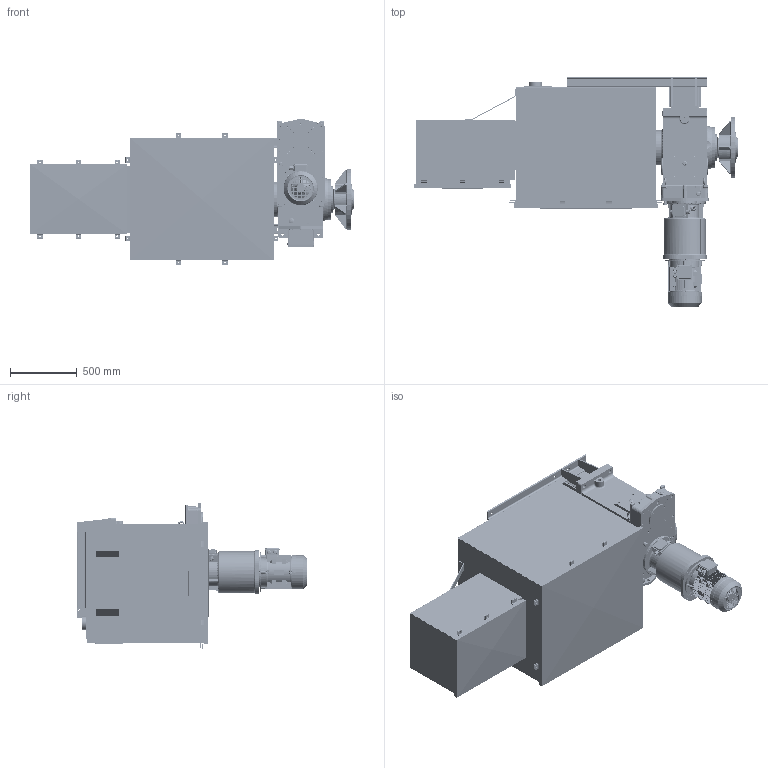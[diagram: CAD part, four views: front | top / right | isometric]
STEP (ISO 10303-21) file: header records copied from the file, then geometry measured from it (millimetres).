
FILE_DESCRIPTION(/* description */ (''),/* implementation_level */ '2;1');
FILE_NAME(/* name */ 'K:\NEMANJA\CABLE REEL\CABLE REEL DA\0700-6\07006002 DAPR-MCGBSR\STEP\75944.stp',/* time_stamp */ '2017-03-16T13:18:49+01:00',/* author */ ('vlakrc01'),/* organization */ ('Hillmar Industries Ltd.'),/* preprocessor_version */ 'ST-DEVELOPER v16.1',/* originating_system */ 'Autodesk Inventor 2016',/* authorisation */ '');
FILE_SCHEMA (('AUTOMOTIVE_DESIGN { 1 0 10303 214 3 1 1 }'));
Products named in the file (1): 75944
Bounding box: 2435.67 x 1729.71 x 1096.62 mm (x, y, z)
Volume: 111746116.5 mm3; surface area: 26624637.5 mm2
Topology: 17 solids, 17 shells, 7712 faces, 20906 edges, 13461 vertices
Faces by surface type: plane 4211, cylinder 1901, bspline 815, cone 442, torus 306, sphere 37
Full cylindrical faces by diameter (mm): 3 x4, 7 x4, 8 x3, 8.376 x24, 8.731 x1, 10 x35, 10.106 x92, 10.4 x4, 11 x44, 12 x12, 12.5 x6, 13 x43, 13.5 x12, 14 x28, 15 x8, 18 x3, 18.256 x3, 18.38 x4, 20 x25, 20.5 x4, 21.336 x1, 22 x20, 22.225 x1, 22.3 x4, 23.812 x2, 24.917 x1, 24.918 x1, 25 x8, 26.645 x1, 27 x4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
Entity records: 267640 total; most frequent: CARTESIAN_POINT 74455, ORIENTED_EDGE 39390, DIRECTION 35643, EDGE_CURVE 19673, VERTEX_POINT 13040, AXIS2_PLACEMENT_3D 12087, LINE 11469, VECTOR 11469
